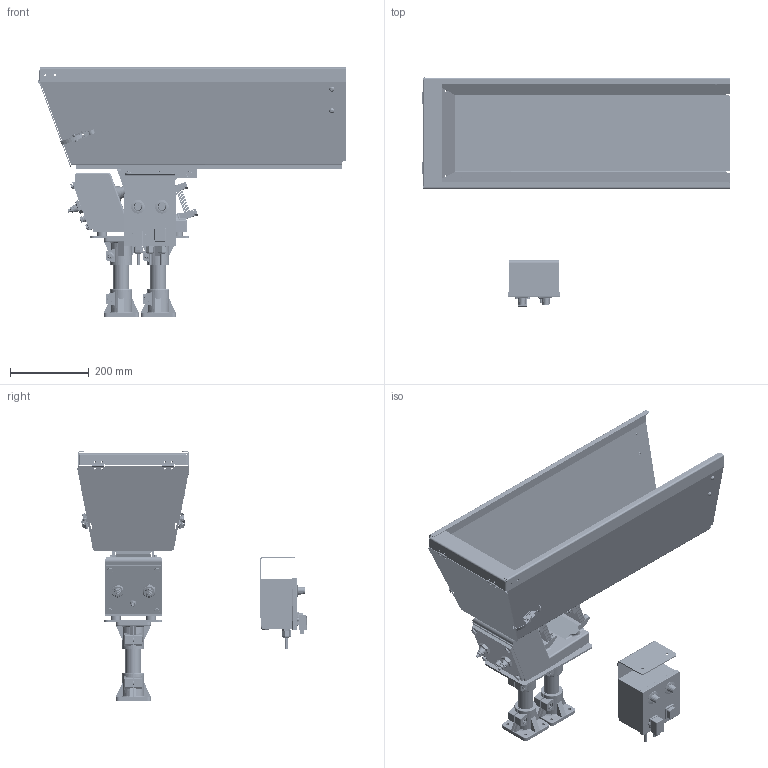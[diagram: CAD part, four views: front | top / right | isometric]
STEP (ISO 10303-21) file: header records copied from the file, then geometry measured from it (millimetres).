
FILE_DESCRIPTION (( 'STEP AP214' ), '1' );
FILE_NAME ('Bulk Feeder 40lt V2.0.STEP', '2021-11-16T14:39:51', ( '' ), ( '' ), 'SwSTEP 2.0', 'SolidWorks 2020', '' );
FILE_SCHEMA (( 'AUTOMOTIVE_DESIGN' ));
Length unit declared in the file: millimetre
Products named in the file (26): CM000306_003; PD001175; CM000305_003; CE000026; CM000979; PD001338_002; PD001338_001; CM000093; SM000080; PD001337; CM000305_001; PD001178; Bulk Feeder 40lt V2.0; CM000432; CM000306_002; PD001179; PD001338; CM000305; CM000305_002; CM000306_001; CM000561; CM000306; PD000067; PD001341; CM000934
Assembly tree (46 placements, depth 3):
  Bulk Feeder 40lt V2.0
    CM000561  x6
    CM000979  x6
    PD001338
      PD001338_001
      PD001338_002
    CM000306  x2
      CM000306_001
      CM000306_002
      CM000306_003
    CM000305
      CM000305_001
      CM000305_003
      CM000305_002
    CM000305
      CM000305_001
      CM000305_003
      CM000305_002
    PD001178
    PD001179
    CM000093
    PD001337
    PD001341
    PD001175
    CM000432  x4
    CE000026
    PD000067
    SM000080  x2
    CM000934  x4
Bounding box: 784.5 x 582.87 x 633.73 mm (x, y, z)
Volume: 7641177.4 mm3; surface area: 2464226.1 mm2
Topology: 44 solids, 102 shells, 9017 faces, 24886 edges, 16213 vertices
Faces by surface type: cylinder 6627, plane 1619, cone 380, torus 208, sphere 142, bspline 41
Entity records: 157136 total; most frequent: CARTESIAN_POINT 40156, ORIENTED_EDGE 20568, DIRECTION 18844, EDGE_CURVE 10284, AXIS2_PLACEMENT_3D 7495, VERTEX_POINT 6573, EDGE_LOOP 4493, FACE_OUTER_BOUND 4024
